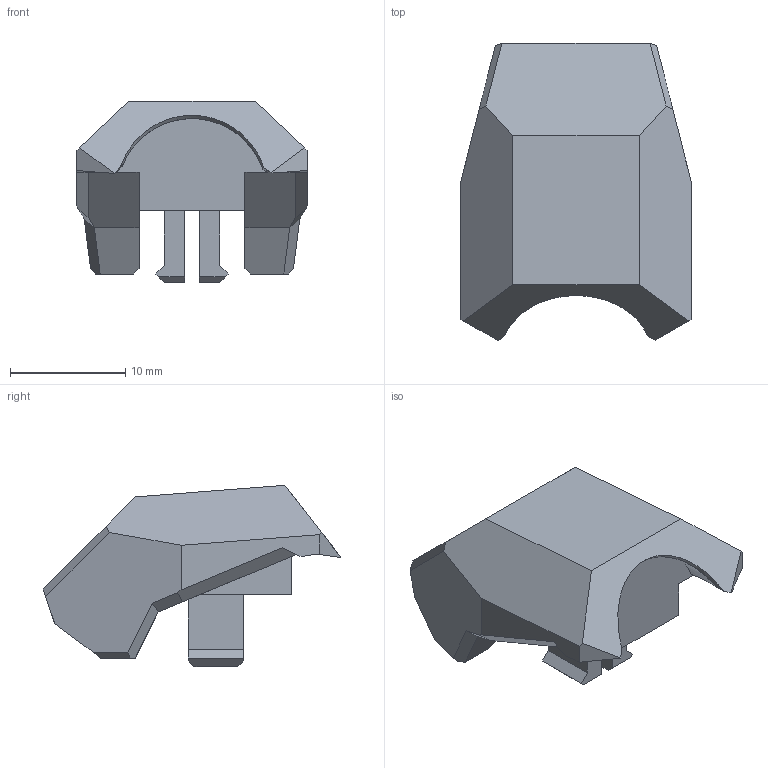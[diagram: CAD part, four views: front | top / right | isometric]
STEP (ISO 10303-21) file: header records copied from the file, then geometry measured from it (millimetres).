
FILE_DESCRIPTION (( 'STEP AP214' ), '1' );
FILE_NAME ('Chest ArmorA1.STEP', '2023-12-26T22:38:18', ( '' ), ( '' ), 'SwSTEP 2.0', 'SolidWorks 2023', '' );
FILE_SCHEMA (( 'AUTOMOTIVE_DESIGN' ));
Length unit declared in the file: millimetre
Products named in the file (1): Chest ArmorA1
Bounding box: 20 x 25.86 x 15.75 mm (x, y, z)
Volume: 3105.9 mm3; surface area: 1667.9 mm2
Topology: 1 solids, 1 shells, 64 faces, 178 edges, 118 vertices
Faces by surface type: plane 58, cylinder 3, bspline 3
Entity records: 2460 total; most frequent: CARTESIAN_POINT 840, ORIENTED_EDGE 356, DIRECTION 285, EDGE_CURVE 178, LINE 155, VECTOR 155, VERTEX_POINT 118, EDGE_LOOP 66
